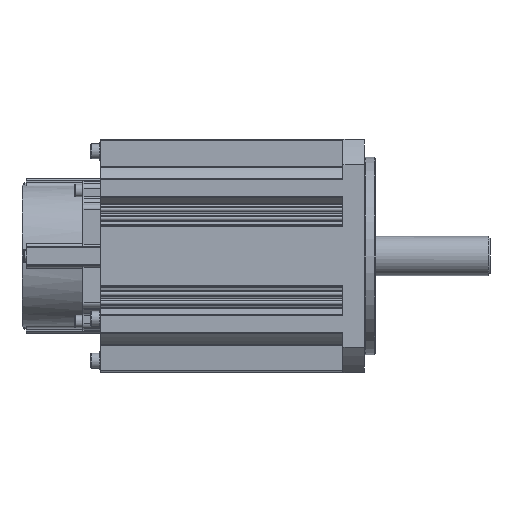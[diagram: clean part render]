
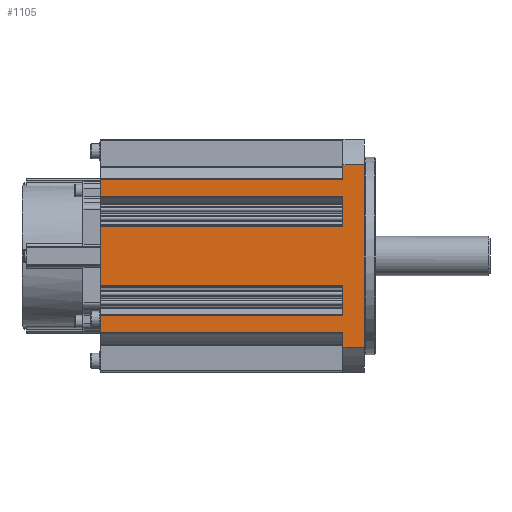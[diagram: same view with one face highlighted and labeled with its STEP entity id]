
A CAD part, front view. The second image highlights one B-rep face of the part: STEP entity #1105.
In plain terms, the highlighted planar face has unit normal (0, -1, 0).
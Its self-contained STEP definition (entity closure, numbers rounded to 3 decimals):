
#1105 = ADVANCED_FACE( '', ( #2539 ), #2540, .T. );
#2539 = FACE_OUTER_BOUND( '', #4366, .T. );
#2540 = PLANE( '', #4367 );
#4366 = EDGE_LOOP( '', ( #7805, #7806, #7807, #7808, #7809, #7810, #7811, #7812, #7813, #7814, #7815, #7816, #7817, #7818, #7819, #7820, #7821, #7822, #7823, #7824 ) );
#4367 = AXIS2_PLACEMENT_3D( '', #7825, #7826, #7827 );
#7805 = ORIENTED_EDGE( '', *, *, #11337, .F. );
#7806 = ORIENTED_EDGE( '', *, *, #11285, .T. );
#7807 = ORIENTED_EDGE( '', *, *, #11524, .F. );
#7808 = ORIENTED_EDGE( '', *, *, #11525, .F. );
#7809 = ORIENTED_EDGE( '', *, *, #10946, .F. );
#7810 = ORIENTED_EDGE( '', *, *, #11526, .T. );
#7811 = ORIENTED_EDGE( '', *, *, #11170, .T. );
#7812 = ORIENTED_EDGE( '', *, *, #11527, .F. );
#7813 = ORIENTED_EDGE( '', *, *, #11484, .F. );
#7814 = ORIENTED_EDGE( '', *, *, #11528, .F. );
#7815 = ORIENTED_EDGE( '', *, *, #10979, .F. );
#7816 = ORIENTED_EDGE( '', *, *, #11529, .T. );
#7817 = ORIENTED_EDGE( '', *, *, #11156, .T. );
#7818 = ORIENTED_EDGE( '', *, *, #11530, .F. );
#7819 = ORIENTED_EDGE( '', *, *, #10567, .F. );
#7820 = ORIENTED_EDGE( '', *, *, #10607, .F. );
#7821 = ORIENTED_EDGE( '', *, *, #11497, .F. );
#7822 = ORIENTED_EDGE( '', *, *, #11531, .T. );
#7823 = ORIENTED_EDGE( '', *, *, #11139, .T. );
#7824 = ORIENTED_EDGE( '', *, *, #11532, .F. );
#7825 = CARTESIAN_POINT( '', ( -147., -65., 50.806 ) );
#7826 = DIRECTION( '', ( 0., -1., 0. ) );
#7827 = DIRECTION( '', ( 0., 0., -1. ) );
#10567 = EDGE_CURVE( '', #12618, #12744, #12745, .T. );
#10607 = EDGE_CURVE( '', #12810, #12618, #12811, .T. );
#10946 = EDGE_CURVE( '', #13368, #13370, #13371, .T. );
#10979 = EDGE_CURVE( '', #13420, #13298, #13421, .T. );
#11139 = EDGE_CURVE( '', #13687, #13685, #13688, .T. );
#11156 = EDGE_CURVE( '', #13719, #13717, #13720, .T. );
#11170 = EDGE_CURVE( '', #13744, #13742, #13745, .T. );
#11285 = EDGE_CURVE( '', #13904, #13906, #13908, .T. );
#11337 = EDGE_CURVE( '', #13904, #13983, #13984, .T. );
#11484 = EDGE_CURVE( '', #14189, #14190, #14191, .T. );
#11497 = EDGE_CURVE( '', #14208, #12810, #14209, .T. );
#11524 = EDGE_CURVE( '', #14243, #13906, #14244, .T. );
#11525 = EDGE_CURVE( '', #13370, #14243, #14245, .T. );
#11526 = EDGE_CURVE( '', #13368, #13744, #14246, .T. );
#11527 = EDGE_CURVE( '', #14190, #13742, #14247, .T. );
#11528 = EDGE_CURVE( '', #13298, #14189, #14248, .T. );
#11529 = EDGE_CURVE( '', #13420, #13719, #14249, .T. );
#11530 = EDGE_CURVE( '', #12744, #13717, #14250, .T. );
#11531 = EDGE_CURVE( '', #14208, #13687, #14251, .T. );
#11532 = EDGE_CURVE( '', #13983, #13685, #14252, .T. );
#12618 = VERTEX_POINT( '', #15619 );
#12744 = VERTEX_POINT( '', #15787 );
#12745 = LINE( '', #15788, #15789 );
#12810 = VERTEX_POINT( '', #15874 );
#12811 = LINE( '', #15875, #15876 );
#13298 = VERTEX_POINT( '', #16578 );
#13368 = VERTEX_POINT( '', #16672 );
#13370 = VERTEX_POINT( '', #16674 );
#13371 = LINE( '', #16675, #16676 );
#13420 = VERTEX_POINT( '', #16736 );
#13421 = LINE( '', #16737, #16738 );
#13685 = VERTEX_POINT( '', #17059 );
#13687 = VERTEX_POINT( '', #17061 );
#13688 = LINE( '', #17062, #17063 );
#13717 = VERTEX_POINT( '', #17097 );
#13719 = VERTEX_POINT( '', #17099 );
#13720 = LINE( '', #17100, #17101 );
#13742 = VERTEX_POINT( '', #17127 );
#13744 = VERTEX_POINT( '', #17129 );
#13745 = LINE( '', #17130, #17131 );
#13904 = VERTEX_POINT( '', #17362 );
#13906 = VERTEX_POINT( '', #17364 );
#13908 = LINE( '', #17366, #17367 );
#13983 = VERTEX_POINT( '', #17478 );
#13984 = LINE( '', #17479, #17480 );
#14189 = VERTEX_POINT( '', #17759 );
#14190 = VERTEX_POINT( '', #17760 );
#14191 = LINE( '', #17761, #17762 );
#14208 = VERTEX_POINT( '', #17782 );
#14209 = LINE( '', #17783, #17784 );
#14243 = VERTEX_POINT( '', #17829 );
#14244 = LINE( '', #17830, #17831 );
#14245 = LINE( '', #17832, #17833 );
#14246 = LINE( '', #17834, #17835 );
#14247 = LINE( '', #17836, #17837 );
#14248 = LINE( '', #17838, #17839 );
#14249 = LINE( '', #17840, #17841 );
#14250 = LINE( '', #17842, #17843 );
#14251 = LINE( '', #17844, #17845 );
#14252 = LINE( '', #17846, #17847 );
#15619 = CARTESIAN_POINT( '', ( -12., -65., -21. ) );
#15787 = CARTESIAN_POINT( '', ( -12., -65., -16.5 ) );
#15788 = CARTESIAN_POINT( '', ( -12., -65., 50.806 ) );
#15789 = VECTOR( '', #19291, 1000. );
#15874 = CARTESIAN_POINT( '', ( -12., -65., -26. ) );
#15875 = CARTESIAN_POINT( '', ( -12., -65., 50.806 ) );
#15876 = VECTOR( '', #19348, 1000. );
#16578 = CARTESIAN_POINT( '', ( -12., -65., 21. ) );
#16672 = CARTESIAN_POINT( '', ( -12., -65., 42.5 ) );
#16674 = CARTESIAN_POINT( '', ( -12., -65., 50.806 ) );
#16675 = CARTESIAN_POINT( '', ( -12., -65., 50.806 ) );
#16676 = VECTOR( '', #19772, 1000. );
#16736 = CARTESIAN_POINT( '', ( -12., -65., 16.5 ) );
#16737 = CARTESIAN_POINT( '', ( -12., -65., 50.806 ) );
#16738 = VECTOR( '', #19823, 1000. );
#17059 = CARTESIAN_POINT( '', ( -147., -65., -42.5 ) );
#17061 = CARTESIAN_POINT( '', ( -147., -65., -33.089 ) );
#17062 = CARTESIAN_POINT( '', ( -147., -65., 50.806 ) );
#17063 = VECTOR( '', #20166, 1000. );
#17097 = CARTESIAN_POINT( '', ( -147., -65., -16.5 ) );
#17099 = CARTESIAN_POINT( '', ( -147., -65., 16.5 ) );
#17100 = CARTESIAN_POINT( '', ( -147., -65., 50.806 ) );
#17101 = VECTOR( '', #20205, 1000. );
#17127 = CARTESIAN_POINT( '', ( -147., -65., 33.089 ) );
#17129 = CARTESIAN_POINT( '', ( -147., -65., 42.5 ) );
#17130 = CARTESIAN_POINT( '', ( -147., -65., 50.806 ) );
#17131 = VECTOR( '', #20237, 1000. );
#17362 = CARTESIAN_POINT( '', ( -12., -65., -50.806 ) );
#17364 = CARTESIAN_POINT( '', ( 0., -65., -50.806 ) );
#17366 = CARTESIAN_POINT( '', ( -147., -65., -50.806 ) );
#17367 = VECTOR( '', #20388, 1000. );
#17478 = CARTESIAN_POINT( '', ( -12., -65., -42.5 ) );
#17479 = CARTESIAN_POINT( '', ( -12., -65., 50.806 ) );
#17480 = VECTOR( '', #20451, 1000. );
#17759 = CARTESIAN_POINT( '', ( -12., -65., 26. ) );
#17760 = CARTESIAN_POINT( '', ( -12., -65., 33.089 ) );
#17761 = CARTESIAN_POINT( '', ( -12., -65., 50.806 ) );
#17762 = VECTOR( '', #20652, 1000. );
#17782 = CARTESIAN_POINT( '', ( -12., -65., -33.089 ) );
#17783 = CARTESIAN_POINT( '', ( -12., -65., 50.806 ) );
#17784 = VECTOR( '', #20674, 1000. );
#17829 = CARTESIAN_POINT( '', ( 0., -65., 50.806 ) );
#17830 = CARTESIAN_POINT( '', ( 0., -65., 50.806 ) );
#17831 = VECTOR( '', #20701, 1000. );
#17832 = CARTESIAN_POINT( '', ( -147., -65., 50.806 ) );
#17833 = VECTOR( '', #20702, 1000. );
#17834 = CARTESIAN_POINT( '', ( -12., -65., 42.5 ) );
#17835 = VECTOR( '', #20703, 1000. );
#17836 = CARTESIAN_POINT( '', ( -12., -65., 33.089 ) );
#17837 = VECTOR( '', #20704, 1000. );
#17838 = CARTESIAN_POINT( '', ( -12., -65., 50.806 ) );
#17839 = VECTOR( '', #20705, 1000. );
#17840 = CARTESIAN_POINT( '', ( -12., -65., 16.5 ) );
#17841 = VECTOR( '', #20706, 1000. );
#17842 = CARTESIAN_POINT( '', ( -12., -65., -16.5 ) );
#17843 = VECTOR( '', #20707, 1000. );
#17844 = CARTESIAN_POINT( '', ( -12., -65., -33.089 ) );
#17845 = VECTOR( '', #20708, 1000. );
#17846 = CARTESIAN_POINT( '', ( -12., -65., -42.5 ) );
#17847 = VECTOR( '', #20709, 1000. );
#19291 = DIRECTION( '', ( 0., 0., 1. ) );
#19348 = DIRECTION( '', ( 0., 0., 1. ) );
#19772 = DIRECTION( '', ( 0., 0., 1. ) );
#19823 = DIRECTION( '', ( 0., 0., 1. ) );
#20166 = DIRECTION( '', ( 0., 0., -1. ) );
#20205 = DIRECTION( '', ( 0., 0., -1. ) );
#20237 = DIRECTION( '', ( 0., 0., -1. ) );
#20388 = DIRECTION( '', ( 1., 0., 0. ) );
#20451 = DIRECTION( '', ( 0., 0., 1. ) );
#20652 = DIRECTION( '', ( 0., 0., 1. ) );
#20674 = DIRECTION( '', ( 0., 0., 1. ) );
#20701 = DIRECTION( '', ( 0., 0., -1. ) );
#20702 = DIRECTION( '', ( 1., 0., 0. ) );
#20703 = DIRECTION( '', ( -1., 0., 0. ) );
#20704 = DIRECTION( '', ( -1., 0., 0. ) );
#20705 = DIRECTION( '', ( 0., 0., 1. ) );
#20706 = DIRECTION( '', ( -1., 0., 0. ) );
#20707 = DIRECTION( '', ( -1., 0., 0. ) );
#20708 = DIRECTION( '', ( -1., 0., 0. ) );
#20709 = DIRECTION( '', ( -1., 0., 0. ) );
